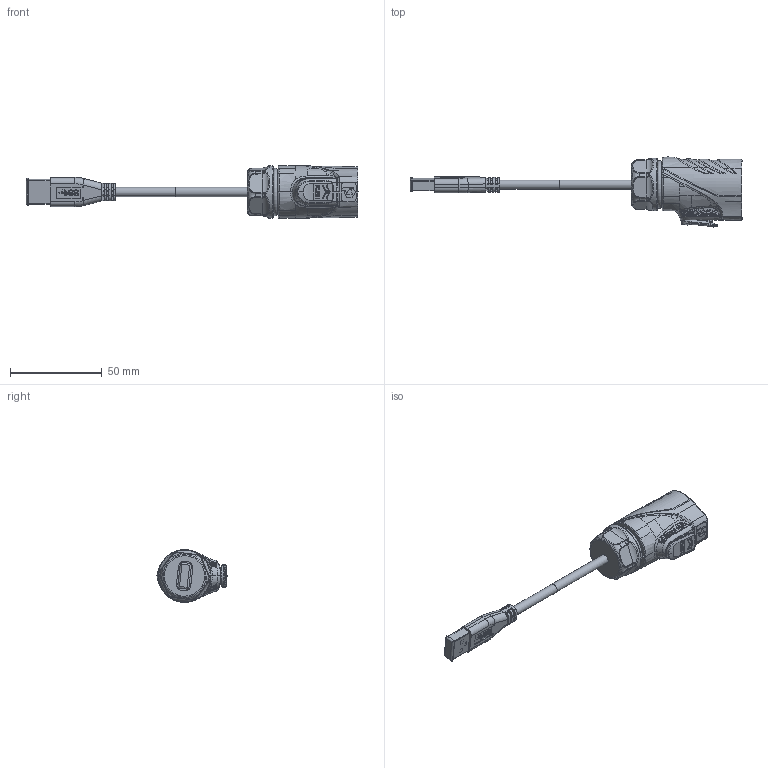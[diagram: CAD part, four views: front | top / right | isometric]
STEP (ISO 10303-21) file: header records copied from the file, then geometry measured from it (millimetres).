
FILE_DESCRIPTION (( 'STEP AP203' ), '1' );
FILE_NAME ('PLG20 USB2.0脣芛盄旰.STEP', '2025-03-20T12:52:32', ( '' ), ( '' ), 'SwSTEP 2.0', 'SolidWorks 2024', '' );
FILE_SCHEMA (( 'CONFIG_CONTROL_DESIGN' ));
Products named in the file (1): PLG20 USB2.0插头线束
Bounding box: 181.15 x 38.21 x 28.77 mm (x, y, z)
Volume: 39471.5 mm3; surface area: 22208.8 mm2
Topology: 11 solids, 13 shells, 1440 faces, 3883 edges, 2490 vertices
Faces by surface type: bspline 688, plane 488, cylinder 186, cone 35, torus 35, sphere 8
Full cylindrical faces by diameter (mm): 1 x2, 1.6 x1, 2.65 x1, 5 x2, 16.8 x1, 17.6 x1, 18.5 x2, 18.6 x2, 19.4 x2, 20.3 x1, 22.033 x2, 22.4 x8, 28.6 x1
Entity records: 97057 total; most frequent: CARTESIAN_POINT 67446, ORIENTED_EDGE 7558, DIRECTION 3800, EDGE_CURVE 3779, VERTEX_POINT 2449, B_SPLINE_CURVE_WITH_KNOTS 1816, EDGE_LOOP 1536, FACE_OUTER_BOUND 1465
